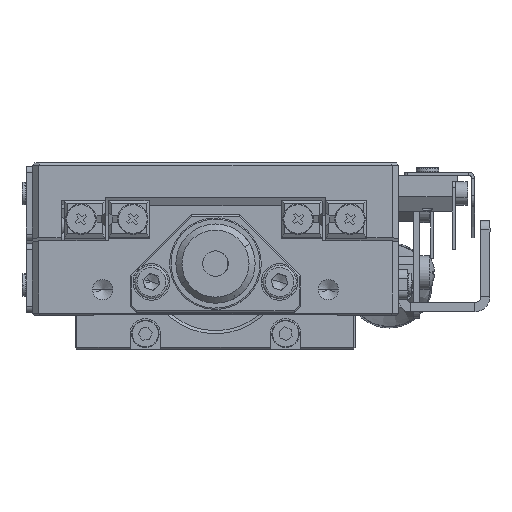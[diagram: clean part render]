
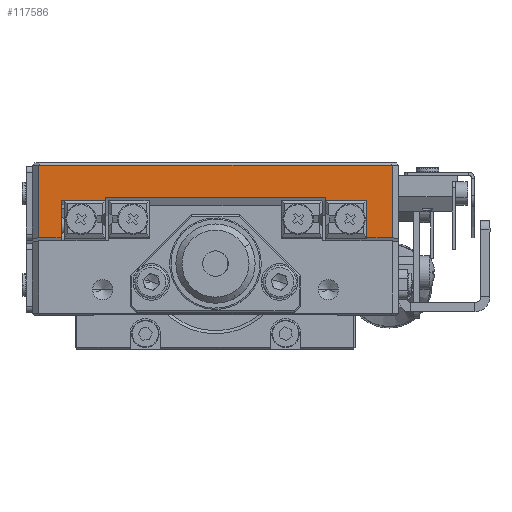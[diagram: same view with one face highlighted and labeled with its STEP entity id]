
A CAD part, left-side view. The second image highlights one B-rep face of the part: STEP entity #117586.
In plain terms, the highlighted planar face has unit normal (-1, 0, 0).
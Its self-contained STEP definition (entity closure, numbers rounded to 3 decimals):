
#946 = CARTESIAN_POINT ( 'NONE',  ( -30., 11.7, -4.612 ) ) ;
#1295 = VECTOR ( 'NONE', #123935, 1000. ) ;
#2124 = VERTEX_POINT ( 'NONE', #92720 ) ;
#2731 = AXIS2_PLACEMENT_3D ( 'NONE', #87041, #97741, #11079 ) ;
#4945 = VERTEX_POINT ( 'NONE', #135831 ) ;
#7227 = LINE ( 'NONE', #73548, #117263 ) ;
#7775 = VECTOR ( 'NONE', #85055, 1000. ) ;
#8654 = ORIENTED_EDGE ( 'NONE', *, *, #98268, .F. ) ;
#9230 = EDGE_CURVE ( 'NONE', #50032, #4945, #83032, .T. ) ;
#10457 = CARTESIAN_POINT ( 'NONE',  ( -30., 65.5, -38.487 ) ) ;
#11079 = DIRECTION ( 'NONE',  ( 0., -1., 0. ) ) ;
#11480 = VERTEX_POINT ( 'NONE', #124396 ) ;
#11546 = PLANE ( 'NONE',  #2731 ) ;
#12018 = CARTESIAN_POINT ( 'NONE',  ( -30., 61.8, -14. ) ) ;
#13751 = DIRECTION ( 'NONE',  ( 0., 1., 0. ) ) ;
#16228 = VERTEX_POINT ( 'NONE', #946 ) ;
#19000 = VERTEX_POINT ( 'NONE', #64651 ) ;
#19547 = CARTESIAN_POINT ( 'NONE',  ( -30., 66.5, -4.612 ) ) ;
#21256 = VERTEX_POINT ( 'NONE', #69675 ) ;
#21279 = VERTEX_POINT ( 'NONE', #78073 ) ;
#21302 = EDGE_CURVE ( 'NONE', #2124, #11480, #35973, .T. ) ;
#30206 = ORIENTED_EDGE ( 'NONE', *, *, #113239, .T. ) ;
#30370 = CARTESIAN_POINT ( 'NONE',  ( -30., 66.5, -10.76 ) ) ;
#31479 = EDGE_CURVE ( 'NONE', #4945, #16228, #7227, .T. ) ;
#32964 = DIRECTION ( 'NONE',  ( 0., 0., 1. ) ) ;
#34019 = EDGE_LOOP ( 'NONE', ( #30206, #125750, #134031, #67486, #101663, #118797, #67283, #62797, #8654, #63521, #111415, #76281 ) ) ;
#35973 = LINE ( 'NONE', #100405, #50971 ) ;
#39171 = CARTESIAN_POINT ( 'NONE',  ( -30., 7.5, -10.76 ) ) ;
#39200 = VECTOR ( 'NONE', #54696, 1000. ) ;
#41861 = CARTESIAN_POINT ( 'NONE',  ( -30., 61.8, -10.76 ) ) ;
#41896 = EDGE_CURVE ( 'NONE', #61531, #19000, #137050, .T. ) ;
#44601 = CARTESIAN_POINT ( 'NONE',  ( -30., 7.5, -38.487 ) ) ;
#46630 = EDGE_CURVE ( 'NONE', #19000, #21279, #83018, .T. ) ;
#48586 = CARTESIAN_POINT ( 'NONE',  ( -30., 66.5, -4.099 ) ) ;
#50032 = VERTEX_POINT ( 'NONE', #39171 ) ;
#50971 = VECTOR ( 'NONE', #101323, 1000. ) ;
#54696 = DIRECTION ( 'NONE',  ( 0., 1., 0. ) ) ;
#56078 = VECTOR ( 'NONE', #126379, 1000. ) ;
#61531 = VERTEX_POINT ( 'NONE', #109582 ) ;
#62523 = VECTOR ( 'NONE', #129423, 1000. ) ;
#62797 = ORIENTED_EDGE ( 'NONE', *, *, #95703, .F. ) ;
#63521 = ORIENTED_EDGE ( 'NONE', *, *, #74123, .F. ) ;
#63700 = CARTESIAN_POINT ( 'NONE',  ( -30., 66.5, -10.76 ) ) ;
#64075 = CARTESIAN_POINT ( 'NONE',  ( -30., 66.5, -4.612 ) ) ;
#64277 = LINE ( 'NONE', #64075, #39200 ) ;
#64651 = CARTESIAN_POINT ( 'NONE',  ( -30., 54.55, -4.612 ) ) ;
#66684 = VERTEX_POINT ( 'NONE', #41861 ) ;
#67283 = ORIENTED_EDGE ( 'NONE', *, *, #41896, .F. ) ;
#67486 = ORIENTED_EDGE ( 'NONE', *, *, #92546, .F. ) ;
#69675 = CARTESIAN_POINT ( 'NONE',  ( -30., 18.45, -4.099 ) ) ;
#73321 = DIRECTION ( 'NONE',  ( 0., 1., 0. ) ) ;
#73548 = CARTESIAN_POINT ( 'NONE',  ( -30., 11.7, -8. ) ) ;
#73792 = LINE ( 'NONE', #48586, #95421 ) ;
#74123 = EDGE_CURVE ( 'NONE', #16228, #120953, #64277, .T. ) ;
#76281 = ORIENTED_EDGE ( 'NONE', *, *, #9230, .F. ) ;
#78073 = CARTESIAN_POINT ( 'NONE',  ( -30., 61.8, -4.612 ) ) ;
#80369 = LINE ( 'NONE', #81269, #130340 ) ;
#80400 = VECTOR ( 'NONE', #113505, 1000. ) ;
#81269 = CARTESIAN_POINT ( 'NONE',  ( -30., 18.45, -7.5 ) ) ;
#82825 = LINE ( 'NONE', #10457, #7775 ) ;
#82855 = LINE ( 'NONE', #30370, #56078 ) ;
#83018 = LINE ( 'NONE', #19547, #1295 ) ;
#83032 = LINE ( 'NONE', #63700, #108007 ) ;
#85055 = DIRECTION ( 'NONE',  ( 0., 0., -1. ) ) ;
#87041 = CARTESIAN_POINT ( 'NONE',  ( -30., 6.5, -38.487 ) ) ;
#87867 = FACE_OUTER_BOUND ( 'NONE', #34019, .T. ) ;
#92546 = EDGE_CURVE ( 'NONE', #66684, #136124, #82855, .T. ) ;
#92720 = CARTESIAN_POINT ( 'NONE',  ( -30., 7.5, 1.1 ) ) ;
#95421 = VECTOR ( 'NONE', #73321, 1000. ) ;
#95703 = EDGE_CURVE ( 'NONE', #21256, #61531, #73792, .T. ) ;
#97741 = DIRECTION ( 'NONE',  ( -1., 0., 0. ) ) ;
#98268 = EDGE_CURVE ( 'NONE', #120953, #21256, #80369, .T. ) ;
#100405 = CARTESIAN_POINT ( 'NONE',  ( -30., 6.5, 1.1 ) ) ;
#101323 = DIRECTION ( 'NONE',  ( 0., 1., 0. ) ) ;
#101663 = ORIENTED_EDGE ( 'NONE', *, *, #120154, .F. ) ;
#102317 = LINE ( 'NONE', #12018, #62523 ) ;
#102334 = CARTESIAN_POINT ( 'NONE',  ( -30., 54.55, -8. ) ) ;
#102382 = CARTESIAN_POINT ( 'NONE',  ( -30., 65.5, -10.76 ) ) ;
#105363 = LINE ( 'NONE', #44601, #117015 ) ;
#105610 = DIRECTION ( 'NONE',  ( 0., 0., 1. ) ) ;
#107655 = CARTESIAN_POINT ( 'NONE',  ( -30., 18.45, -4.612 ) ) ;
#108007 = VECTOR ( 'NONE', #13751, 1000. ) ;
#109582 = CARTESIAN_POINT ( 'NONE',  ( -30., 54.55, -4.099 ) ) ;
#111415 = ORIENTED_EDGE ( 'NONE', *, *, #31479, .F. ) ;
#113239 = EDGE_CURVE ( 'NONE', #50032, #2124, #105363, .T. ) ;
#113505 = DIRECTION ( 'NONE',  ( 0., 0., -1. ) ) ;
#117015 = VECTOR ( 'NONE', #32964, 1000. ) ;
#117263 = VECTOR ( 'NONE', #105610, 1000. ) ;
#117586 = ADVANCED_FACE ( 'NONE', ( #87867 ), #11546, .T. ) ;
#118094 = EDGE_CURVE ( 'NONE', #11480, #136124, #82825, .T. ) ;
#118797 = ORIENTED_EDGE ( 'NONE', *, *, #46630, .F. ) ;
#120154 = EDGE_CURVE ( 'NONE', #21279, #66684, #102317, .T. ) ;
#120953 = VERTEX_POINT ( 'NONE', #107655 ) ;
#123935 = DIRECTION ( 'NONE',  ( 0., 1., 0. ) ) ;
#124071 = DIRECTION ( 'NONE',  ( 0., 0., 1. ) ) ;
#124396 = CARTESIAN_POINT ( 'NONE',  ( -30., 65.5, 1.1 ) ) ;
#125750 = ORIENTED_EDGE ( 'NONE', *, *, #21302, .T. ) ;
#126379 = DIRECTION ( 'NONE',  ( 0., 1., 0. ) ) ;
#129423 = DIRECTION ( 'NONE',  ( 0., 0., -1. ) ) ;
#130340 = VECTOR ( 'NONE', #124071, 1000. ) ;
#134031 = ORIENTED_EDGE ( 'NONE', *, *, #118094, .T. ) ;
#135831 = CARTESIAN_POINT ( 'NONE',  ( -30., 11.7, -10.76 ) ) ;
#136124 = VERTEX_POINT ( 'NONE', #102382 ) ;
#137050 = LINE ( 'NONE', #102334, #80400 ) ;
